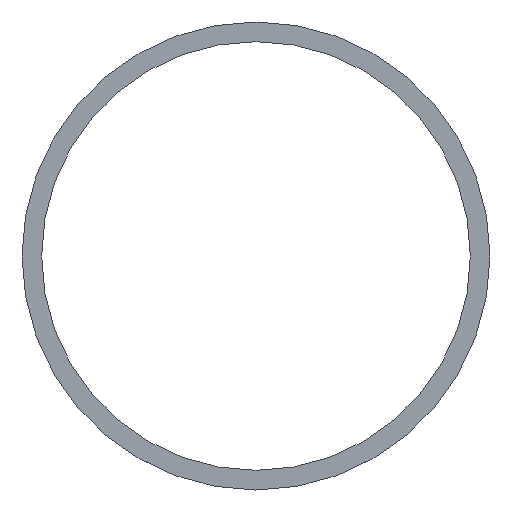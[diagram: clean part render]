
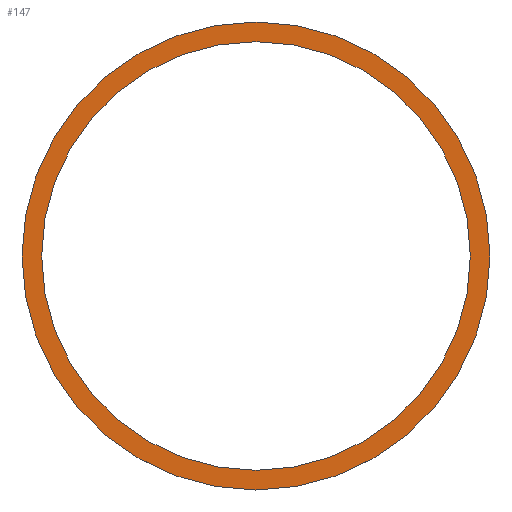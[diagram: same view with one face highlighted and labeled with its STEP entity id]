
A CAD part, top view. The second image highlights one B-rep face of the part: STEP entity #147.
In plain terms, the highlighted planar face has unit normal (0, 0, 1).
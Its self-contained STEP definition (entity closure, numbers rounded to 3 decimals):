
#84=CARTESIAN_POINT('',(101.7,0.,1.05));
#85=VERTEX_POINT('',#84);
#86=CARTESIAN_POINT('',(0.0,0.0,1.05));
#87=DIRECTION('',(0.0,0.0,-1.0));
#88=DIRECTION('',(-1.0,0.0,0.0));
#89=AXIS2_PLACEMENT_3D('',#86,#87,#88);
#90=CIRCLE('',#89,101.7);
#91=EDGE_CURVE('',#85,#85,#90,.T.);
#124=CARTESIAN_POINT('',(111.025,0.,1.05));
#125=VERTEX_POINT('',#124);
#126=CARTESIAN_POINT('',(0.0,0.0,1.05));
#127=DIRECTION('',(0.0,0.0,-1.0));
#128=DIRECTION('',(-1.0,0.0,0.0));
#129=AXIS2_PLACEMENT_3D('',#126,#127,#128);
#130=CIRCLE('',#129,111.025);
#131=EDGE_CURVE('',#125,#125,#130,.T.);
#136=CARTESIAN_POINT('',(0.0,0.0,1.05));
#137=DIRECTION('',(0.0,0.0,-1.0));
#138=DIRECTION('',(-1.0,0.0,0.0));
#139=AXIS2_PLACEMENT_3D('',#136,#137,#138);
#140=PLANE('',#139);
#141=ORIENTED_EDGE('',*,*,#131,.F.);
#142=EDGE_LOOP('',(#141));
#143=FACE_OUTER_BOUND('',#142,.T.);
#144=ORIENTED_EDGE('',*,*,#91,.T.);
#145=EDGE_LOOP('',(#144));
#146=FACE_BOUND('',#145,.T.);
#147=ADVANCED_FACE('',(#143,#146),#140,.F.);
